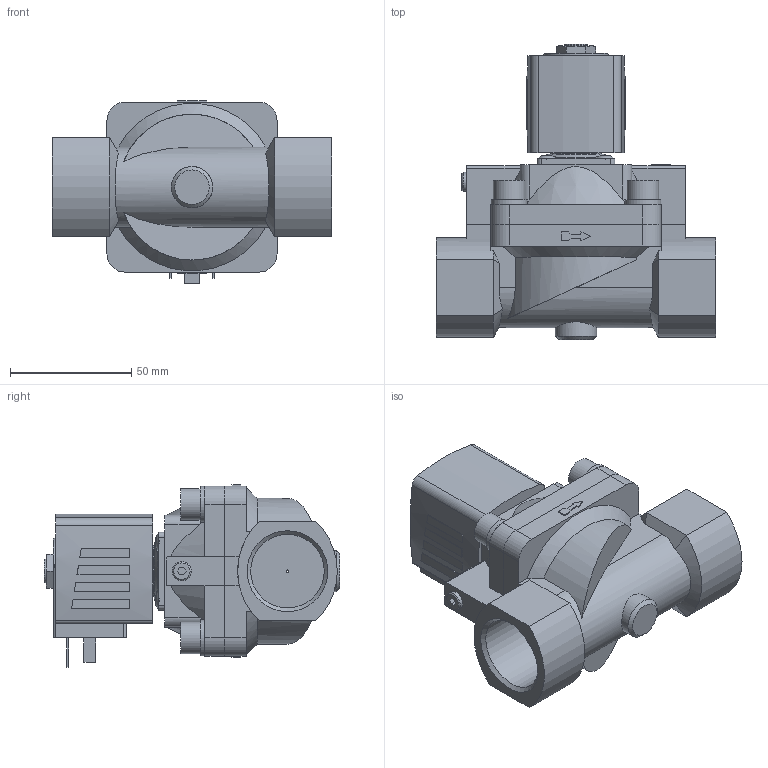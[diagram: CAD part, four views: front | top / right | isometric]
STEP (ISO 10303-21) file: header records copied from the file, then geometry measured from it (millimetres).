
FILE_DESCRIPTION(/* description */ ('STEP AP214'),/* implementation_level */ '2;1');
FILE_NAME(/* name */ '5404-295270-Servo-assisted_2_2_way_piston_valve',/* time_stamp */ '2024-02-29T12:10:24+01:00',/* author */ ('License CC BY-ND 4.0'),/* organization */ ('CADENAS'),/* preprocessor_version */ 'ST-DEVELOPER v19.3',/* originating_system */ 'PARTsolutions',/* authorisation */ ' ');
FILE_SCHEMA (('AUTOMOTIVE_DESIGN {1 0 10303 214 3 1 1}'));
Length unit declared in the file: millimetre
Products named in the file (4): 5404-295270-Servo-assisted 2/2 way piston valve; 5282g-8625MS000-2/2-Wege-Magnetventil_Gehaeuse; 5282d-25MSAU3J-2/2-Wege-Magnetventil_Deckel; AC10ex-6NA38-Plan-Coil
Assembly tree (3 placements, depth 2):
  5404-295270-Servo-assisted 2/2 way piston valve
    5282g-8625MS000-2/2-Wege-Magnetventil_Gehaeuse
    5282d-25MSAU3J-2/2-Wege-Magnetventil_Deckel
    AC10ex-6NA38-Plan-Coil
Bounding box: 115 x 121.6 x 75 mm (x, y, z)
Volume: 341470 mm3; surface area: 60813.3 mm2
Topology: 3 solids, 3 shells, 301 faces, 740 edges, 487 vertices
Faces by surface type: plane 197, cylinder 77, cone 22, torus 5
Full cylindrical faces by diameter (mm): 1 x1, 2.013 x1, 4 x4, 7.5 x4, 7.6 x4, 7.8 x1, 9.74 x1, 13 x4, 14.8 x4, 17 x1, 21 x1, 30.291 x2
Entity records: 9470 total; most frequent: CARTESIAN_POINT 1729, DIRECTION 1444, ORIENTED_EDGE 1380, EDGE_CURVE 690, AXIS2_PLACEMENT_3D 502, VERTEX_POINT 476, LINE 440, VECTOR 440
